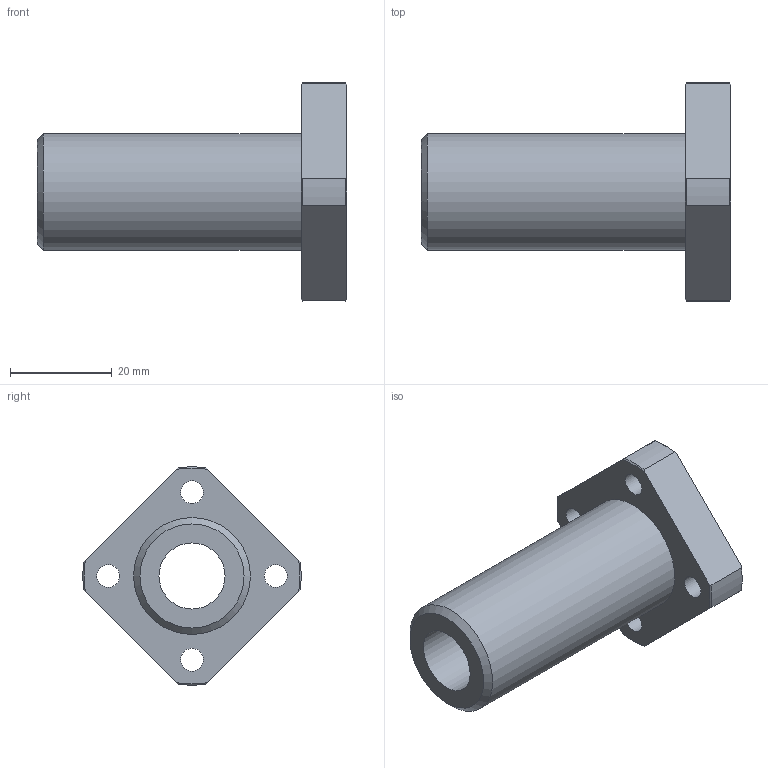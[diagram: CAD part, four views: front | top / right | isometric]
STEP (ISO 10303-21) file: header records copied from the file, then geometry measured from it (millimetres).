
FILE_DESCRIPTION(('STEP AP203'),'1');
FILE_NAME('//192.168.1.1/share/s-4 技術開発/s-4-4_CAD/s-4-4-3_見直し済み/PBC LINEAR修正済み/DFPJ/DFPJ_TOP/DFPJ/DFPJ13.step','2022-03-24T05:05:26',(' '),(' '),'Spatial InterOp 3D',' ',' ');
FILE_SCHEMA(('CONFIG_CONTROL_DESIGN'));
Length unit declared in the file: millimetre
Products named in the file (1): 1
Bounding box: 61 x 42.96 x 42.96 mm (x, y, z)
Volume: 22577.3 mm3; surface area: 9859.1 mm2
Topology: 1 solids, 1 shells, 34 faces, 85 edges, 58 vertices
Faces by surface type: cylinder 14, plane 11, cone 9
Full cylindrical faces by diameter (mm): 4.5 x4, 7.5 x4, 13 x1, 23 x1
Entity records: 1018 total; most frequent: CARTESIAN_POINT 205, DIRECTION 160, ORIENTED_EDGE 138, AXIS2_PLACEMENT_3D 72, EDGE_CURVE 69, EDGE_LOOP 60, VERTEX_POINT 53, FACE_OUTER_BOUND 44
